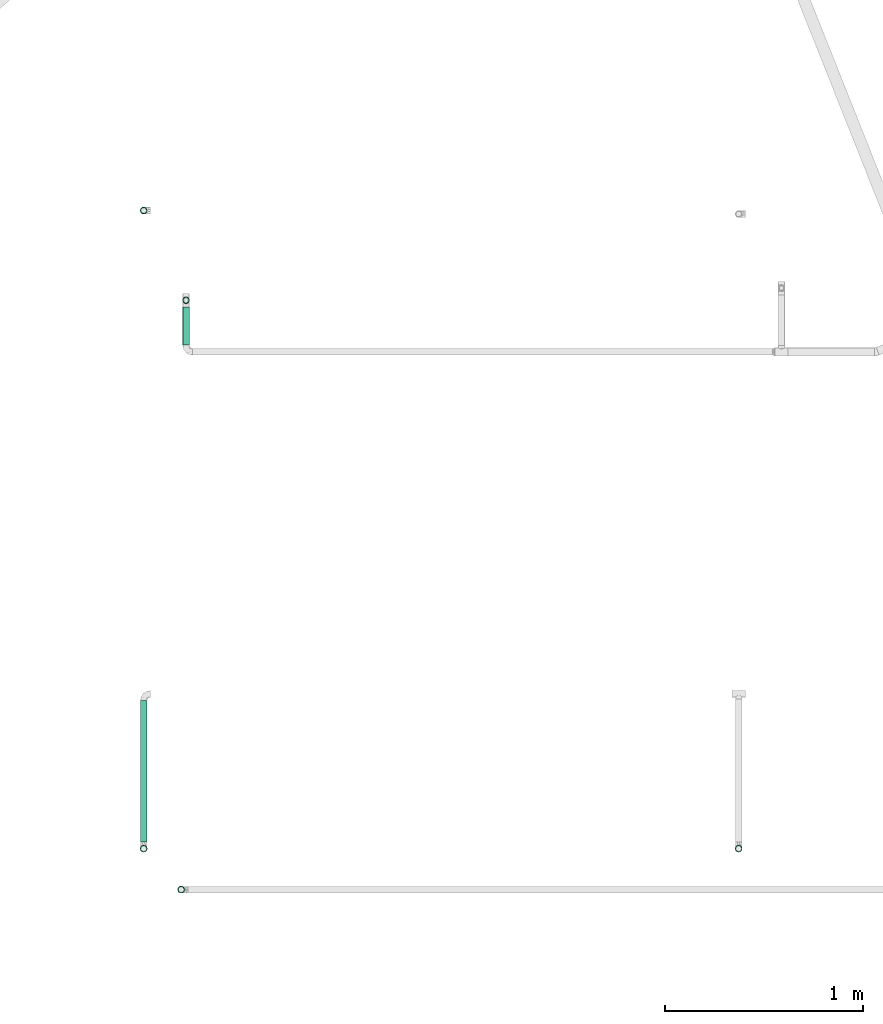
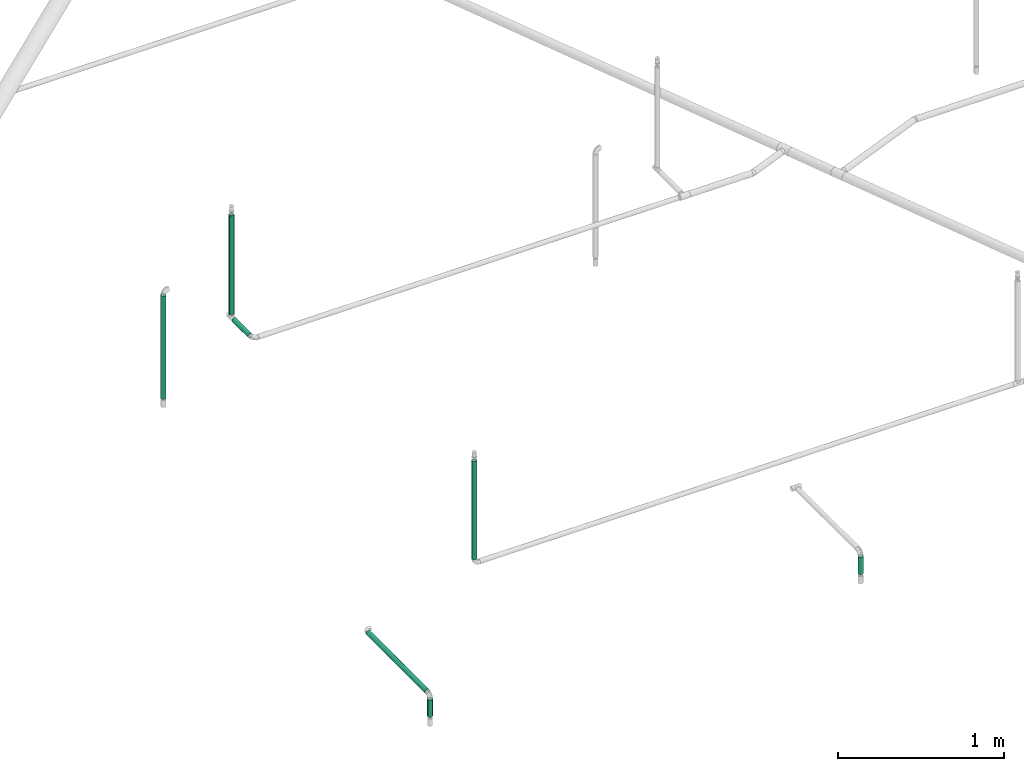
# One storey, part 6 of 94: 7 flow segments.
"""IFC2X3 building model written with IfcOpenShell, lengths in millimetres."""

from ifc_helpers import new_model, entity, si_unit, converted_unit, derived_unit, direction, frame, origin_with_axes, origin_2d_with_axis, place, context, subcontext, project, spatial, hollow_circle, extrude, source, transform, mapped, type_object, element, save


model = new_model("IFC2X3")

# Units and contexts
model_context = context("Model", 3, precision=0.01, world=frame((0.0, 4.29681676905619e-09, 0.0)), true_north=direction((4.01073788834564e-13, 1.0)))
plan_context = context("Plan", 3, precision=0.01, world=frame((0.0, 4.29681676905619e-09, 0.0)), true_north=direction((4.01073788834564e-13, 1.0)))
body_context = subcontext(model_context, "Body", "Model", "MODEL_VIEW")
ifc_project = project(units=[converted_unit("PLANEANGLEUNIT", "DEGREE", entity("IfcPositiveLengthMeasure", 0.0174532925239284), si_unit("PLANEANGLEUNIT", "RADIAN"), dimensions=[0, 0, 0, 0, 0, 0, 0]), si_unit("AREAUNIT", "SQUARE_METRE"), si_unit("LENGTHUNIT", "METRE", prefix="MILLI"), si_unit("MASSUNIT", "GRAM", prefix="KILO"), si_unit("POWERUNIT", "WATT"), si_unit("PRESSUREUNIT", "PASCAL", prefix="KILO"), si_unit("FORCEUNIT", "NEWTON", prefix="KILO"), si_unit("ELECTRICVOLTAGEUNIT", "VOLT"), si_unit("ELECTRICCURRENTUNIT", "AMPERE"), si_unit("THERMODYNAMICTEMPERATUREUNIT", "DEGREE_CELSIUS"), si_unit("TIMEUNIT", "SECOND"), si_unit("VOLUMEUNIT", "CUBIC_METRE"), derived_unit("LINEARVELOCITYUNIT", [(si_unit("LENGTHUNIT", "METRE"), 1), (si_unit("TIMEUNIT", "SECOND"), -1)]), derived_unit("VOLUMETRICFLOWRATEUNIT", [(si_unit("VOLUMEUNIT", "CUBIC_METRE"), 1), (si_unit("TIMEUNIT", "SECOND"), -1)]), derived_unit("THERMALTRANSMITTANCEUNIT", [(si_unit("POWERUNIT", "WATT"), 1), (si_unit("THERMODYNAMICTEMPERATUREUNIT", "KELVIN"), -1), (si_unit("AREAUNIT", "SQUARE_METRE"), -1)]), derived_unit("SOUNDPRESSUREUNIT", [(si_unit("PRESSUREUNIT", "PASCAL"), 1)])], contexts=[model_context, plan_context])

# Site, building, storey
site_placement = place(None, frame((0.0, -4.29681676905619e-09, 0.0), z_axis=(0.0, 0.0, 1.0), x_axis=(1.0, 0.0, 0.0)))
site = spatial("IfcSite", under=ifc_project, at=site_placement, CompositionType="ELEMENT")
building_placement = place(site_placement, frame((0.0, 4.29681676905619e-09, 0.0), z_axis=(0.0, 0.0, 1.0), x_axis=(1.0, 0.0, 0.0)))
building = spatial("IfcBuilding", under=site, at=building_placement, Name="mc-building", CompositionType="ELEMENT")
storey_placement = place(building_placement, frame((0.0, 0.0, 210900.0), z_axis=(0.0, 0.0, 1.0), x_axis=(1.0, 0.0, 0.0)))
storey = spatial("IfcBuildingStorey", under=building, at=storey_placement, Name="Nivå F", CompositionType="ELEMENT", Elevation=210900.0)

# Flow segments
pipe_segment_type = type_object("IfcPipeSegmentType", Name="Stålrør normaltykke", PredefinedType="RIGIDSEGMENT")
shared_shape_1 = source(origin_with_axes(), body_context, "Body", "SweptSolid", [
    extrude(hollow_circle(Radius=16.9, WallThickness=2.0, at=origin_2d_with_axis()), frame((0.0, 0.0, 0.0), z_axis=(1.0, 0.0, 0.0), x_axis=(0.0, 1.0, 0.0)), (0.0, 0.0, 1.0), 192.4),
])
flow_segment_1_placement = place(storey_placement, frame((716213.48481, 437939.83424, 3600.0), z_axis=(0.0, 0.0, 1.0), x_axis=(0.0, 1.0, 0.0)))
element("IfcFlowSegment", 1, at=flow_segment_1_placement, inside=storey, type_object=pipe_segment_type, Name="Stålrør normaltykke", context=body_context, shape_type="MappedRepresentation", body=[
    mapped(shared_shape_1, transform((0.0, 0.0, 0.0), scale=1.0)),
])
shared_shape_2 = source(origin_with_axes(), body_context, "Body", "SweptSolid", [
    extrude(hollow_circle(Radius=16.9, WallThickness=2.0, at=origin_2d_with_axis()), frame((0.0, 0.0, 0.0), z_axis=(1.0, 0.0, 0.0), x_axis=(0.0, 1.0, 0.0)), (0.0, 0.0, 1.0), 723.8),
])
flow_segment_2_placement = place(storey_placement, frame((716188.9668, 435194.37907, 3633.79999999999), z_axis=(-0.000893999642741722, -0.99999960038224, 0.0), x_axis=(0.0, 0.0, 1.0)))
element("IfcFlowSegment", 2, at=flow_segment_2_placement, inside=storey, type_object=pipe_segment_type, Name="Stålrør normaltykke", context=body_context, shape_type="MappedRepresentation", body=[
    mapped(shared_shape_2, transform((0.0, 0.0, 0.0), scale=1.0)),
])
shared_shape_3 = source(origin_with_axes(), body_context, "Body", "SweptSolid", [
    extrude(hollow_circle(Radius=16.9, WallThickness=2.0, at=origin_2d_with_axis()), frame((0.0, 0.0, 0.0), z_axis=(1.0, 0.0, 0.0), x_axis=(0.0, 1.0, 0.0)), (0.0, 0.0, 1.0), 732.3),
])
flow_segment_3_placement = place(storey_placement, frame((716213.48481, 438166.03424, 3625.35000000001), z_axis=(-1.0, 0.0, 0.0), x_axis=(0.0, 0.0, 1.0)))
element("IfcFlowSegment", 3, at=flow_segment_3_placement, inside=storey, type_object=pipe_segment_type, Name="Stålrør normaltykke", context=body_context, shape_type="MappedRepresentation", body=[
    mapped(shared_shape_3, transform((0.0, 0.0, 0.0), scale=1.0)),
])
shared_shape_4 = source(origin_with_axes(), body_context, "Body", "SweptSolid", [
    extrude(hollow_circle(Radius=16.9, WallThickness=2.0, at=origin_2d_with_axis()), frame((0.0, 0.0, 0.0), z_axis=(1.0, 0.0, 0.0), x_axis=(0.0, 1.0, 0.0)), (0.0, 0.0, 1.0), 126.2),
])
for number, where, z_axis, x_axis in (
    (4, (716000.0, 435400.95076, 2415.448), (-1.0, 0.0, 0.0), (0.0, 0.0, 1.0)),
    (5, (719000.0, 435400.95076, 2415.448), (-1.0, 0.0, 0.0), (0.0, 0.0, 1.0)),
):
    element("IfcFlowSegment", number, at=place(storey_placement, frame(where, z_axis=z_axis, x_axis=x_axis)), inside=storey, type_object=pipe_segment_type, Name="Stålrør normaltykke", context=body_context, shape_type="MappedRepresentation", body=[
        mapped(shared_shape_4, transform((0.0, 0.0, 0.0), scale=1.0)),
    ])
shared_shape_5 = source(origin_with_axes(), body_context, "Body", "SweptSolid", [
    extrude(hollow_circle(Radius=16.9, WallThickness=2.0, at=origin_2d_with_axis()), frame((0.0, 0.0, 0.0), z_axis=(1.0, 0.0, 0.0), x_axis=(0.0, 1.0, 0.0)), (0.0, 0.0, 1.0), 712.4),
])
flow_segment_4_placement = place(storey_placement, frame((716000.0, 435434.75076, 2575.448), z_axis=(0.0, 0.0, 1.0), x_axis=(0.0, 1.0, 0.0)))
element("IfcFlowSegment", 6, at=flow_segment_4_placement, inside=storey, type_object=pipe_segment_type, Name="Stålrør normaltykke", context=body_context, shape_type="MappedRepresentation", body=[
    mapped(shared_shape_5, transform((0.0, 0.0, 0.0), scale=1.0)),
])
shared_shape_6 = source(origin_with_axes(), body_context, "Body", "SweptSolid", [
    extrude(hollow_circle(Radius=16.9, WallThickness=2.0, at=origin_2d_with_axis()), frame((0.0, 0.0, 0.0), z_axis=(1.0, 0.0, 0.0), x_axis=(0.0, 1.0, 0.0)), (0.0, 0.0, 1.0), 759.3),
])
flow_segment_5_placement = place(storey_placement, frame((716000.0, 438618.37443, 2806.89074), z_axis=(0.0, 1.0, 0.0), x_axis=(0.0, 0.0, 1.0)))
element("IfcFlowSegment", 7, at=flow_segment_5_placement, inside=storey, type_object=pipe_segment_type, Name="Stålrør normaltykke", context=body_context, shape_type="MappedRepresentation", body=[
    mapped(shared_shape_6, transform((0.0, 0.0, 0.0), scale=1.0)),
])

save(model, "model.ifc")
